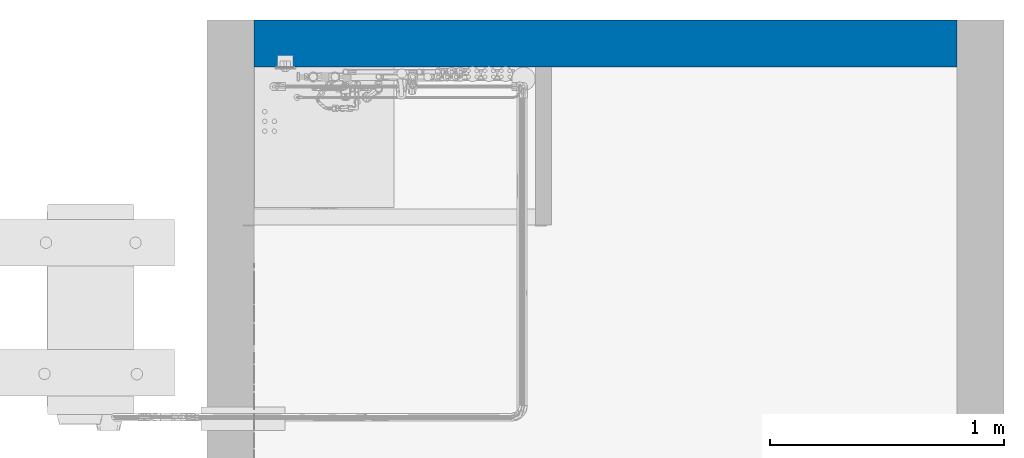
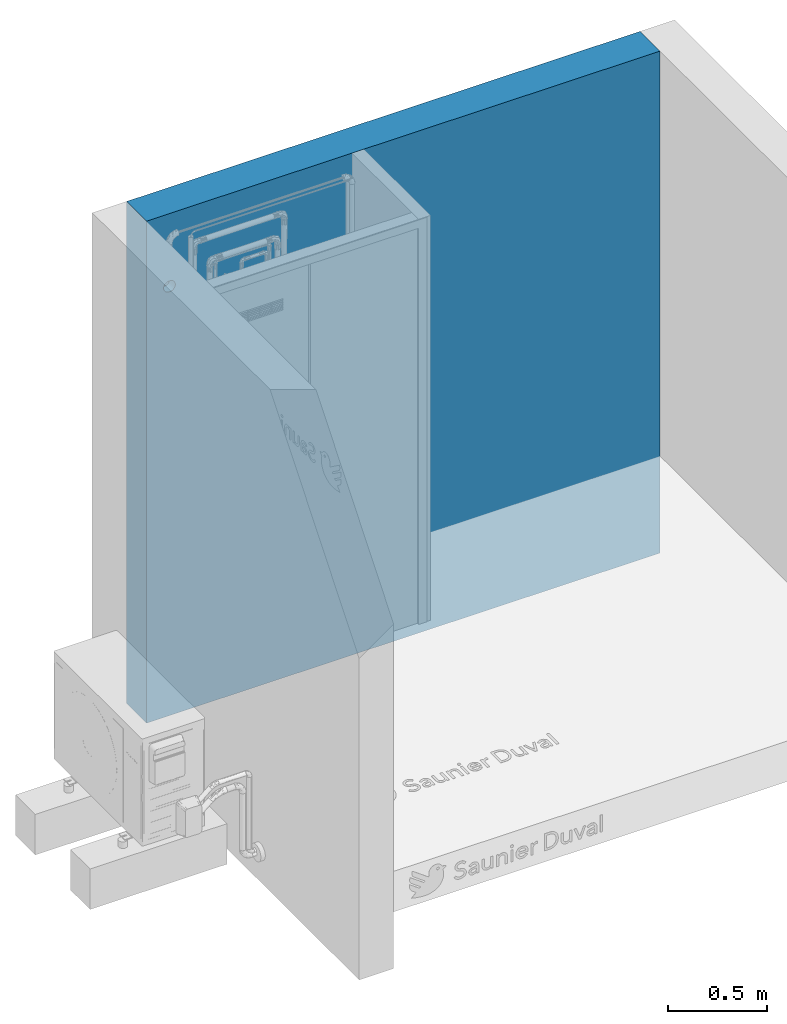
# One storey, part 2 of 32: 1 wall, 1 opening.
"""IFC2X3 building model written with IfcOpenShell, lengths in metres."""

from ifc_helpers import new_model, entity, si_unit, converted_unit, derived_unit, direction, frame, frame_2d, origin, origin_2d_with_axis, place, context, subcontext, project, spatial, circle_curve, parameter, trimmed, segment, composite_curve, rectangle, outline, extrude, material, layer, layer_set, layer_usage, type_object, element, save


model = new_model("IFC2X3")

# Units and contexts
model_context = context("Model", 3, precision=1e-05, world=origin(), true_north=direction((6.123031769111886e-17, 1.0)))
body_context = subcontext(model_context, "Body", "Model", "MODEL_VIEW")
ifc_project = project(units=[si_unit("LENGTHUNIT", "METRE"), si_unit("AREAUNIT", "SQUARE_METRE"), si_unit("VOLUMEUNIT", "CUBIC_METRE"), converted_unit("PLANEANGLEUNIT", "DEGREE", entity("IfcPlaneAngleMeasure", 0.017453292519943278), si_unit("PLANEANGLEUNIT", "RADIAN"), dimensions=[0, 0, 0, 0, 0, 0, 0]), si_unit("MASSUNIT", "GRAM", prefix="KILO"), derived_unit("MASSDENSITYUNIT", [(si_unit("MASSUNIT", "GRAM", prefix="KILO"), 1), (si_unit("LENGTHUNIT", "METRE"), -3)]), derived_unit("IONCONCENTRATIONUNIT", [(si_unit("MASSUNIT", "GRAM", prefix="KILO"), 1), (si_unit("LENGTHUNIT", "METRE"), -3)]), derived_unit("MOMENTOFINERTIAUNIT", [(si_unit("LENGTHUNIT", "METRE"), 4)]), si_unit("TIMEUNIT", "SECOND"), si_unit("FREQUENCYUNIT", "HERTZ"), si_unit("THERMODYNAMICTEMPERATUREUNIT", "DEGREE_CELSIUS"), derived_unit("THERMALTRANSMITTANCEUNIT", [(si_unit("MASSUNIT", "GRAM", prefix="KILO"), 1), (si_unit("THERMODYNAMICTEMPERATUREUNIT", "KELVIN"), -1), (si_unit("TIMEUNIT", "SECOND"), -3)]), derived_unit("THERMALCONDUCTANCEUNIT", [(si_unit("MASSUNIT", "GRAM", prefix="KILO"), 1), (si_unit("THERMODYNAMICTEMPERATUREUNIT", "KELVIN"), -1), (si_unit("TIMEUNIT", "SECOND"), -3), (si_unit("LENGTHUNIT", "METRE"), 1)]), derived_unit("VOLUMETRICFLOWRATEUNIT", [(si_unit("LENGTHUNIT", "METRE", prefix="DECI"), 3), (si_unit("TIMEUNIT", "SECOND"), -1)]), derived_unit("MASSFLOWRATEUNIT", [(si_unit("MASSUNIT", "GRAM", prefix="KILO"), 1), (si_unit("TIMEUNIT", "SECOND"), -1)]), derived_unit("ROTATIONALFREQUENCYUNIT", [(si_unit("TIMEUNIT", "SECOND"), -1)]), si_unit("ELECTRICCURRENTUNIT", "AMPERE"), si_unit("ELECTRICVOLTAGEUNIT", "VOLT"), si_unit("POWERUNIT", "WATT"), si_unit("FORCEUNIT", "NEWTON", prefix="KILO"), si_unit("ILLUMINANCEUNIT", "LUX"), si_unit("LUMINOUSFLUXUNIT", "LUMEN"), si_unit("LUMINOUSINTENSITYUNIT", "CANDELA"), si_unit("ENERGYUNIT", "JOULE"), derived_unit("USERDEFINED", [(si_unit("MASSUNIT", "GRAM", prefix="KILO"), -1), (si_unit("LENGTHUNIT", "METRE"), -2), (si_unit("TIMEUNIT", "SECOND"), 3), (si_unit("LUMINOUSFLUXUNIT", "LUMEN"), 1)]), derived_unit("USERDEFINED", [(si_unit("MASSUNIT", "GRAM", prefix="KILO"), 1), (si_unit("TIMEUNIT", "SECOND"), -3), (si_unit("LENGTHUNIT", "METRE"), 3), (si_unit("ELECTRICCURRENTUNIT", "AMPERE"), -2)]), derived_unit("SOUNDPOWERUNIT", [(si_unit("MASSUNIT", "GRAM", prefix="KILO"), 1), (si_unit("TIMEUNIT", "SECOND"), -3), (si_unit("LENGTHUNIT", "METRE"), 2)]), derived_unit("SOUNDPRESSUREUNIT", [(si_unit("MASSUNIT", "GRAM", prefix="KILO"), 1), (si_unit("LENGTHUNIT", "METRE"), -1), (si_unit("TIMEUNIT", "SECOND"), -2)]), derived_unit("LINEARVELOCITYUNIT", [(si_unit("LENGTHUNIT", "METRE"), 1), (si_unit("TIMEUNIT", "SECOND"), -1)]), si_unit("PRESSUREUNIT", "PASCAL"), derived_unit("USERDEFINED", [(si_unit("MASSUNIT", "GRAM", prefix="KILO"), 1), (si_unit("LENGTHUNIT", "METRE"), -2), (si_unit("TIMEUNIT", "SECOND"), -2)]), derived_unit("LINEARFORCEUNIT", [(si_unit("MASSUNIT", "GRAM", prefix="KILO"), 1), (si_unit("TIMEUNIT", "SECOND"), -2)]), derived_unit("PLANARFORCEUNIT", [(si_unit("MASSUNIT", "GRAM", prefix="KILO"), 1), (si_unit("LENGTHUNIT", "METRE"), -1), (si_unit("TIMEUNIT", "SECOND"), -2)]), derived_unit("SPECIFICHEATCAPACITYUNIT", [(si_unit("THERMODYNAMICTEMPERATUREUNIT", "KELVIN"), -1), (si_unit("LENGTHUNIT", "METRE"), 2), (si_unit("TIMEUNIT", "SECOND"), -2)]), derived_unit("HEATFLUXDENSITYUNIT", [(si_unit("MASSUNIT", "GRAM", prefix="KILO"), 1), (si_unit("TIMEUNIT", "SECOND"), -3)]), derived_unit("HEATINGVALUEUNIT", [(si_unit("LENGTHUNIT", "METRE"), 2), (si_unit("TIMEUNIT", "SECOND"), -2)]), derived_unit("VAPORPERMEABILITYUNIT", [(si_unit("LENGTHUNIT", "METRE"), -1), (si_unit("TIMEUNIT", "SECOND"), 1)]), derived_unit("DYNAMICVISCOSITYUNIT", [(si_unit("MASSUNIT", "GRAM", prefix="KILO"), 1), (si_unit("TIMEUNIT", "SECOND"), -1), (si_unit("LENGTHUNIT", "METRE"), -1)]), derived_unit("THERMALEXPANSIONCOEFFICIENTUNIT", [(si_unit("THERMODYNAMICTEMPERATUREUNIT", "KELVIN"), -1)]), derived_unit("MODULUSOFELASTICITYUNIT", [(si_unit("MASSUNIT", "GRAM", prefix="KILO"), 1), (si_unit("LENGTHUNIT", "METRE"), -1), (si_unit("TIMEUNIT", "SECOND"), -2)]), derived_unit("ISOTHERMALMOISTURECAPACITYUNIT", [(si_unit("MASSUNIT", "GRAM", prefix="KILO"), -1), (si_unit("LENGTHUNIT", "METRE"), 3)]), derived_unit("MOISTUREDIFFUSIVITYUNIT", [(si_unit("TIMEUNIT", "SECOND"), -1), (si_unit("LENGTHUNIT", "METRE"), 2)]), derived_unit("MASSPERLENGTHUNIT", [(si_unit("MASSUNIT", "GRAM", prefix="KILO"), 1), (si_unit("LENGTHUNIT", "METRE"), -1)]), derived_unit("THERMALRESISTANCEUNIT", [(si_unit("MASSUNIT", "GRAM", prefix="KILO"), -1), (si_unit("TIMEUNIT", "SECOND"), 3), (si_unit("THERMODYNAMICTEMPERATUREUNIT", "KELVIN"), 1)]), derived_unit("ACCELERATIONUNIT", [(si_unit("LENGTHUNIT", "METRE"), 1), (si_unit("TIMEUNIT", "SECOND"), -2)]), derived_unit("ANGULARVELOCITYUNIT", [(si_unit("TIMEUNIT", "SECOND"), -1), (si_unit("PLANEANGLEUNIT", "RADIAN"), 1)]), derived_unit("LINEARSTIFFNESSUNIT", [(si_unit("MASSUNIT", "GRAM", prefix="KILO"), 1), (si_unit("TIMEUNIT", "SECOND"), -2)]), derived_unit("WARPINGCONSTANTUNIT", [(si_unit("LENGTHUNIT", "METRE"), 6)]), derived_unit("LINEARMOMENTUNIT", [(si_unit("MASSUNIT", "GRAM", prefix="KILO"), 1), (si_unit("LENGTHUNIT", "METRE"), 1), (si_unit("TIMEUNIT", "SECOND"), -2)]), derived_unit("TORQUEUNIT", [(si_unit("MASSUNIT", "GRAM", prefix="KILO"), 1), (si_unit("LENGTHUNIT", "METRE"), 2), (si_unit("TIMEUNIT", "SECOND"), -2)])], contexts=[model_context])

# Site, building, storey
site_placement = place(None, origin())
site = spatial("IfcSite", under=ifc_project, at=site_placement, Name="Default", CompositionType="ELEMENT")
building_placement = place(site_placement, origin())
building = spatial("IfcBuilding", under=site, at=building_placement, CompositionType="ELEMENT")
storey_placement = place(building_placement, origin())
storey = spatial("IfcBuildingStorey", under=building, at=storey_placement, Name="Niveau 0", CompositionType="ELEMENT", Elevation=-1.949160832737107e-14)

# Wall, opening
ifc_material_1 = material(Name="Mur par défaut")
ifc_layer_1 = layer(ifc_material_1, 0.2)
ifc_material_2 = material(Name="Color RGB 255-255-255")
ifc_layer_2 = layer(ifc_material_2, 0.0009999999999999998)
ifc_layer_set = layer_set([ifc_layer_1, ifc_layer_2], Name="Mur de base:Générique - Ext. 200 mm")
ifc_layer_usage = layer_usage(ifc_layer_set, "AXIS2", "NEGATIVE", 0.1005)
wall_type = type_object("IfcWallType", Name="Mur de base:Générique - Ext. 200 mm", PredefinedType="STANDARD", material=ifc_layer_set)
wall_placement = place(storey_placement, frame((-14.70955318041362, 2.9690264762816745, -0.6000000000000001)))
wall = element("IfcWallStandardCase", 1, at=wall_placement, inside=storey, type_object=wall_type, material=ifc_layer_usage, Name="Mur de base:Générique - Ext. 200 mm", ObjectType="Mur de base:Générique - Ext. 200 mm", context=body_context, shape_type="SweptSolid", body=[
    extrude(rectangle(XDim=2.9989999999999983, YDim=0.2009999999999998, at=frame_2d((1.4994999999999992, 2.220446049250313e-16), x_axis=(-1.0, 0.0))), origin(), (0.0, 0.0, 1.0), 3.100000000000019),
])
opening_placement = place(wall_placement, origin())
element("IfcOpeningElement", 2, at=opening_placement, cuts=wall, Name="Mur de base:Générique - Ext. 200 mm", ObjectType="Recess", context=body_context, shape_type="SweptSolid", body=[
    extrude(outline(composite_curve([segment(trimmed(circle_curve(frame_2d((-0.0006000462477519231, 0.0), x_axis=(1.0, 0.0)), 0.03400558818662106), [parameter(88.98893376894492)], [parameter(271.01106623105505)], True, "PARAMETER"), True, "CONTINUOUS"), segment(trimmed(circle_curve(origin_2d_with_axis(), 0.03400029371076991), [parameter(269.99999999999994)], [parameter(90.00000000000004)], True, "PARAMETER"), True, "CONTINUOUS")], self_intersect=False)), frame((0.13367589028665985, -0.1004999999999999, 2.6505649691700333), z_axis=(0.0, 1.0, 0.0), x_axis=(-1.0, 0.0, 0.0)), (0.0, 0.0, 1.0), 0.05499999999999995),
])

save(model, "model.ifc")
